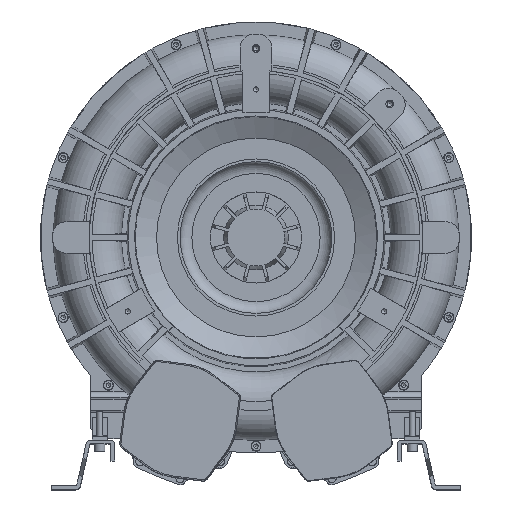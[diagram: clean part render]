
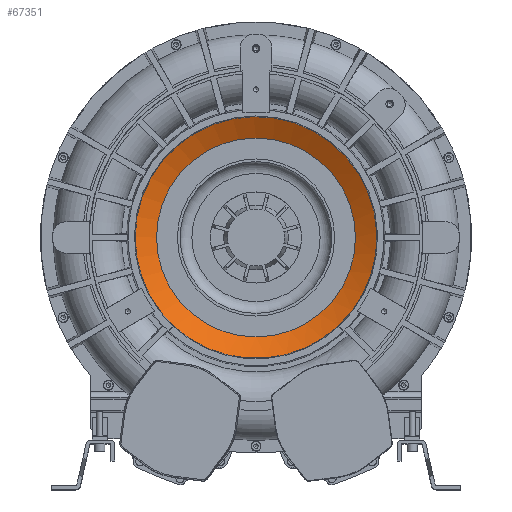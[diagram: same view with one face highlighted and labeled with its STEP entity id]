
A CAD part, top view. The second image highlights one B-rep face of the part: STEP entity #67351.
In plain terms, the highlighted conical face has half-angle 62 degrees and reference radius 131.023 mm.
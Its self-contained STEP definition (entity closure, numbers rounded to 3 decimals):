
#22327 = DIRECTION ( 'NONE',  ( 0., 0., 1. ) ) ;
#22973 = CIRCLE ( 'NONE', #158262, 131.023 ) ;
#25761 = VERTEX_POINT ( 'NONE', #210161 ) ;
#28327 = CARTESIAN_POINT ( 'NONE',  ( 0., 0., 215.5 ) ) ;
#55336 = ORIENTED_EDGE ( 'NONE', *, *, #198076, .F. ) ;
#64670 = DIRECTION ( 'NONE',  ( 1., 0., 0. ) ) ;
#67351 = ADVANCED_FACE ( 'NONE', ( #235352, #212152 ), #228820, .F. ) ;
#80820 = CARTESIAN_POINT ( 'NONE',  ( -159.217, 0., 230.491 ) ) ;
#93488 = AXIS2_PLACEMENT_3D ( 'NONE', #130171, #22327, #64670 ) ;
#99191 = CARTESIAN_POINT ( 'NONE',  ( 0., 0., 230.491 ) ) ;
#113678 = EDGE_CURVE ( 'NONE', #25761, #25761, #22973, .T. ) ;
#130171 = CARTESIAN_POINT ( 'NONE',  ( 0., 0., 215.5 ) ) ;
#130781 = DIRECTION ( 'NONE',  ( -1., 0., 0. ) ) ;
#140952 = VERTEX_POINT ( 'NONE', #80820 ) ;
#158262 = AXIS2_PLACEMENT_3D ( 'NONE', #28327, #173129, #130781 ) ;
#162000 = DIRECTION ( 'NONE',  ( 0., 0., -1. ) ) ;
#173129 = DIRECTION ( 'NONE',  ( 0., 0., 1. ) ) ;
#174682 = AXIS2_PLACEMENT_3D ( 'NONE', #99191, #162000, #264480 ) ;
#194345 = ORIENTED_EDGE ( 'NONE', *, *, #113678, .F. ) ;
#198076 = EDGE_CURVE ( 'NONE', #140952, #140952, #222670, .T. ) ;
#201736 = EDGE_LOOP ( 'NONE', ( #194345 ) ) ;
#210161 = CARTESIAN_POINT ( 'NONE',  ( -131.023, 0., 215.5 ) ) ;
#210579 = EDGE_LOOP ( 'NONE', ( #55336 ) ) ;
#212152 = FACE_BOUND ( 'NONE', #201736, .T. ) ;
#222670 = CIRCLE ( 'NONE', #174682, 159.217 ) ;
#228820 = CONICAL_SURFACE ( 'NONE', #93488, 131.023, 1.082 ) ;
#235352 = FACE_OUTER_BOUND ( 'NONE', #210579, .T. ) ;
#264480 = DIRECTION ( 'NONE',  ( -1., 0., 0. ) ) ;
